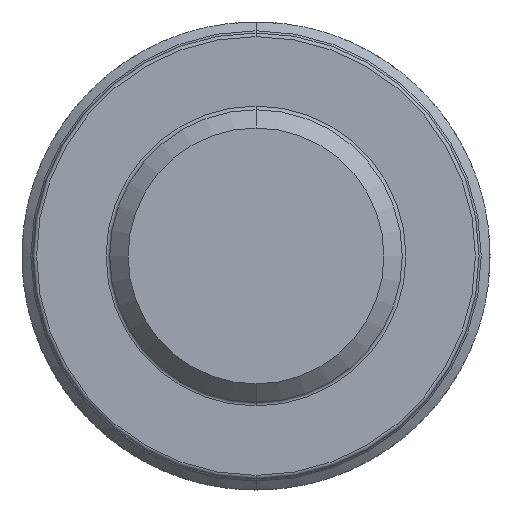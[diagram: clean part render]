
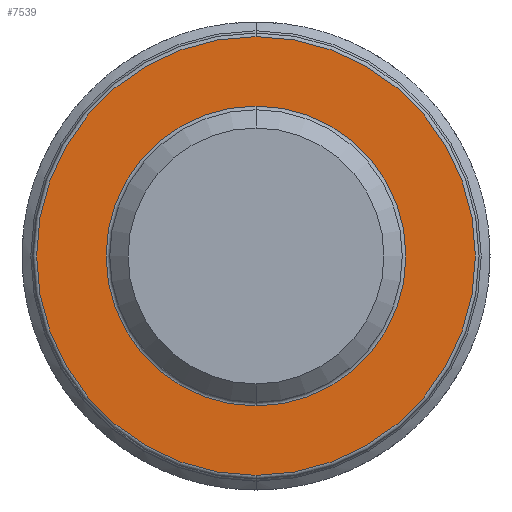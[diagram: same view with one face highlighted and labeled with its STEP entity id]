
A CAD part, front view. The second image highlights one B-rep face of the part: STEP entity #7539.
In plain terms, the highlighted planar face has unit normal (0, -1, 0).
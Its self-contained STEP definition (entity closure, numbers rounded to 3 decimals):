
#73 = EDGE_CURVE ( 'NONE', #4845, #5187, #7110, .T. ) ;
#76 = EDGE_LOOP ( 'NONE', ( #1986, #5467 ) ) ;
#629 = AXIS2_PLACEMENT_3D ( 'NONE', #8102, #6893, #8059 ) ;
#882 = CIRCLE ( 'NONE', #1694, 6. ) ;
#946 = EDGE_CURVE ( 'NONE', #5187, #4845, #7644, .T. ) ;
#1085 = EDGE_CURVE ( 'NONE', #6954, #2881, #882, .T. ) ;
#1138 = CIRCLE ( 'NONE', #2614, 6. ) ;
#1694 = AXIS2_PLACEMENT_3D ( 'NONE', #5738, #3193, #6286 ) ;
#1839 = CARTESIAN_POINT ( 'NONE',  ( 4., -8., 0. ) ) ;
#1986 = ORIENTED_EDGE ( 'NONE', *, *, #4554, .T. ) ;
#2036 = AXIS2_PLACEMENT_3D ( 'NONE', #1839, #4389, #3106 ) ;
#2614 = AXIS2_PLACEMENT_3D ( 'NONE', #4386, #6112, #5559 ) ;
#2851 = DIRECTION ( 'NONE',  ( 0., 1., 0. ) ) ;
#2861 = CARTESIAN_POINT ( 'NONE',  ( 0., -8., -4.1 ) ) ;
#2881 = VERTEX_POINT ( 'NONE', #8142 ) ;
#3106 = DIRECTION ( 'NONE',  ( 0., 0., -1. ) ) ;
#3193 = DIRECTION ( 'NONE',  ( 0., -1., 0. ) ) ;
#3702 = FACE_OUTER_BOUND ( 'NONE', #76, .T. ) ;
#3949 = CARTESIAN_POINT ( 'NONE',  ( 0., -8., 4.1 ) ) ;
#4038 = EDGE_LOOP ( 'NONE', ( #7225, #5064 ) ) ;
#4166 = CARTESIAN_POINT ( 'NONE',  ( 0., -8., 6. ) ) ;
#4260 = CARTESIAN_POINT ( 'NONE',  ( 0., -8., 0. ) ) ;
#4386 = CARTESIAN_POINT ( 'NONE',  ( 0., -8., 0. ) ) ;
#4389 = DIRECTION ( 'NONE',  ( 0., -1., 0. ) ) ;
#4554 = EDGE_CURVE ( 'NONE', #2881, #6954, #1138, .T. ) ;
#4845 = VERTEX_POINT ( 'NONE', #3949 ) ;
#5064 = ORIENTED_EDGE ( 'NONE', *, *, #73, .T. ) ;
#5082 = AXIS2_PLACEMENT_3D ( 'NONE', #4260, #2851, #6836 ) ;
#5187 = VERTEX_POINT ( 'NONE', #2861 ) ;
#5467 = ORIENTED_EDGE ( 'NONE', *, *, #1085, .T. ) ;
#5559 = DIRECTION ( 'NONE',  ( 0., 0., -1. ) ) ;
#5738 = CARTESIAN_POINT ( 'NONE',  ( 0., -8., 0. ) ) ;
#6112 = DIRECTION ( 'NONE',  ( 0., -1., 0. ) ) ;
#6285 = PLANE ( 'NONE',  #2036 ) ;
#6286 = DIRECTION ( 'NONE',  ( 0., 0., -1. ) ) ;
#6836 = DIRECTION ( 'NONE',  ( 0., 0., -1. ) ) ;
#6880 = FACE_BOUND ( 'NONE', #4038, .T. ) ;
#6893 = DIRECTION ( 'NONE',  ( 0., 1., 0. ) ) ;
#6954 = VERTEX_POINT ( 'NONE', #4166 ) ;
#7110 = CIRCLE ( 'NONE', #629, 4.1 ) ;
#7225 = ORIENTED_EDGE ( 'NONE', *, *, #946, .T. ) ;
#7539 = ADVANCED_FACE ( 'NONE', ( #6880, #3702 ), #6285, .T. ) ;
#7644 = CIRCLE ( 'NONE', #5082, 4.1 ) ;
#8059 = DIRECTION ( 'NONE',  ( 0., 0., -1. ) ) ;
#8102 = CARTESIAN_POINT ( 'NONE',  ( 0., -8., 0. ) ) ;
#8142 = CARTESIAN_POINT ( 'NONE',  ( 0., -8., -6. ) ) ;
